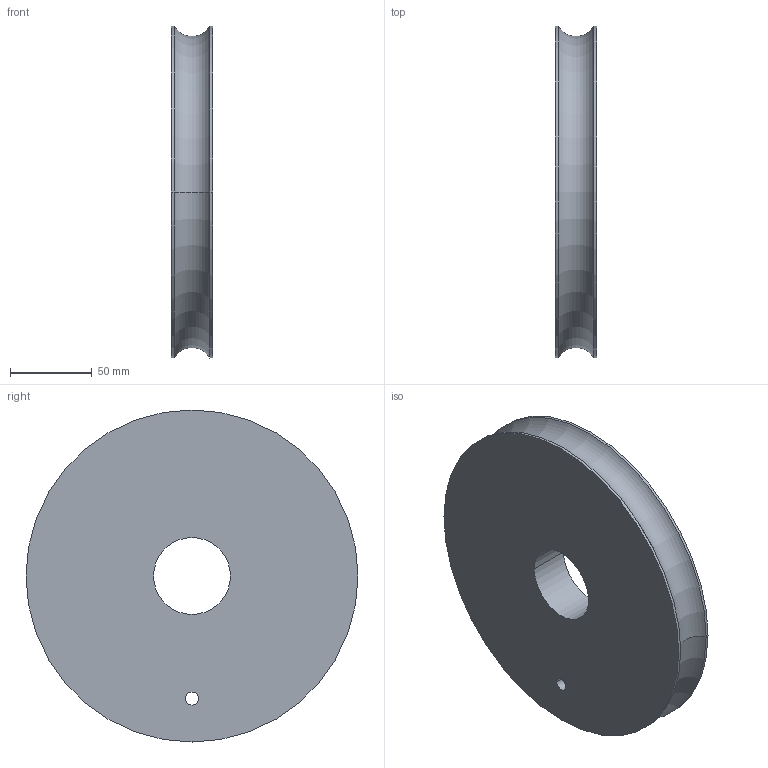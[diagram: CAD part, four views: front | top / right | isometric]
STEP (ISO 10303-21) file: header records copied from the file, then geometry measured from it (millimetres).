
FILE_DESCRIPTION(/* description */ ('VariCAD 2010-3.03 AP-214'),/* implementation_level */ '2;1');
FILE_NAME(/* name */ '0353-22-29',/* time_stamp */ '2011-06-28T16:34:15-06:00',/* author */ (''),/* organization */ (''),/* preprocessor_version */ 'ST-DEVELOPER v12',/* originating_system */ 'VariCAD 2010-3.03; kernel version (20100102)',/* authorisation */ '');
FILE_SCHEMA (('AUTOMOTIVE_DESIGN'));
Length unit declared in the file: millimetre
Products named in the file (1): Part
Bounding box: 25.4 x 203.2 x 203.2 mm (x, y, z)
Volume: 716402.4 mm3; surface area: 84203 mm2
Topology: 1 solids, 1 shells, 15 faces, 32 edges, 20 vertices
Faces by surface type: cylinder 10, plane 3, torus 2
Entity records: 451 total; most frequent: DIRECTION 88, CARTESIAN_POINT 69, ORIENTED_EDGE 64, AXIS2_PLACEMENT_3D 39, EDGE_CURVE 32, CIRCLE 22, EDGE_LOOP 20, VERTEX_POINT 20
